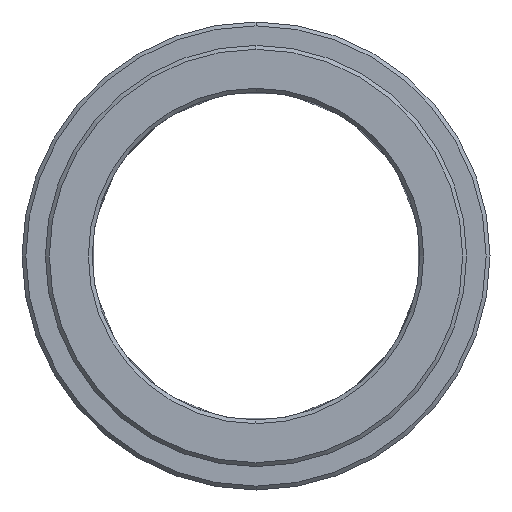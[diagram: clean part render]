
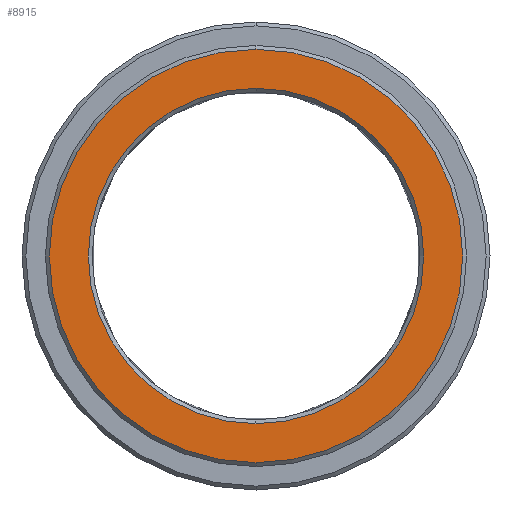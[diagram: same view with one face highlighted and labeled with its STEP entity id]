
A CAD part, left-side view. The second image highlights one B-rep face of the part: STEP entity #8915.
In plain terms, the highlighted planar face has unit normal (-1, 0, 0).
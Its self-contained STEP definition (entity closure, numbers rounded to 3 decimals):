
#6082=CARTESIAN_POINT('',(-10.,0.,
0.));
#6083=DIRECTION('',(1.,0.,0.));
#6084=DIRECTION('',(0.,0.,1.));
#6085=AXIS2_PLACEMENT_3D('',#6082,#6083,#6084);
#6087=CARTESIAN_POINT('',(-10.,0.,
0.));
#6088=DIRECTION('',(1.,0.,0.));
#6089=DIRECTION('',(0.,0.,-1.));
#6090=AXIS2_PLACEMENT_3D('',#6087,#6088,#6089);
#6092=CARTESIAN_POINT('',(-10.,0.,
0.));
#6093=DIRECTION('',(1.,0.,0.));
#6094=DIRECTION('',(0.,0.,1.));
#6095=AXIS2_PLACEMENT_3D('',#6092,#6093,#6094);
#6097=CARTESIAN_POINT('',(-10.,0.,0.));
#6098=DIRECTION('',(1.,0.,0.));
#6099=DIRECTION('',(0.,0.,-1.));
#6100=AXIS2_PLACEMENT_3D('',#6097,#6098,#6099);
#6466=CARTESIAN_POINT('',(-10.,0.,21.5));
#6467=CARTESIAN_POINT('',(-10.,0.,
-21.5));
#6468=VERTEX_POINT('',#6466);
#6469=VERTEX_POINT('',#6467);
#6474=CARTESIAN_POINT('',(-10.,0.,26.5));
#6475=CARTESIAN_POINT('',(-10.,0.,
-26.5));
#6476=VERTEX_POINT('',#6474);
#6477=VERTEX_POINT('',#6475);
#8900=CARTESIAN_POINT('',(-10.,0.,0.));
#8901=DIRECTION('',(1.,0.,0.));
#8902=DIRECTION('',(0.,0.,1.));
#8903=AXIS2_PLACEMENT_3D('',#8900,#8901,#8902);
#8904=PLANE('',#8903);
#8905=ORIENTED_EDGE('',*,*,#8867,.T.);
#8906=ORIENTED_EDGE('',*,*,#8882,.T.);
#8907=EDGE_LOOP('',(#8905,#8906));
#8908=FACE_OUTER_BOUND('',#8907,.F.);
#8910=ORIENTED_EDGE('',*,*,#8909,.F.);
#8912=ORIENTED_EDGE('',*,*,#8911,.F.);
#8913=EDGE_LOOP('',(#8910,#8912));
#8914=FACE_BOUND('',#8913,.F.);
#8915=ADVANCED_FACE('',(#8908,#8914),#8904,.F.);
#6086=CIRCLE('',#6085,26.5);
#6091=CIRCLE('',#6090,26.5);
#6096=CIRCLE('',#6095,21.5);
#6101=CIRCLE('',#6100,21.5);
#8867=EDGE_CURVE('',#6476,#6477,#6086,.T.);
#8882=EDGE_CURVE('',#6477,#6476,#6091,.T.);
#8909=EDGE_CURVE('',#6468,#6469,#6096,.T.);
#8911=EDGE_CURVE('',#6469,#6468,#6101,.T.);
